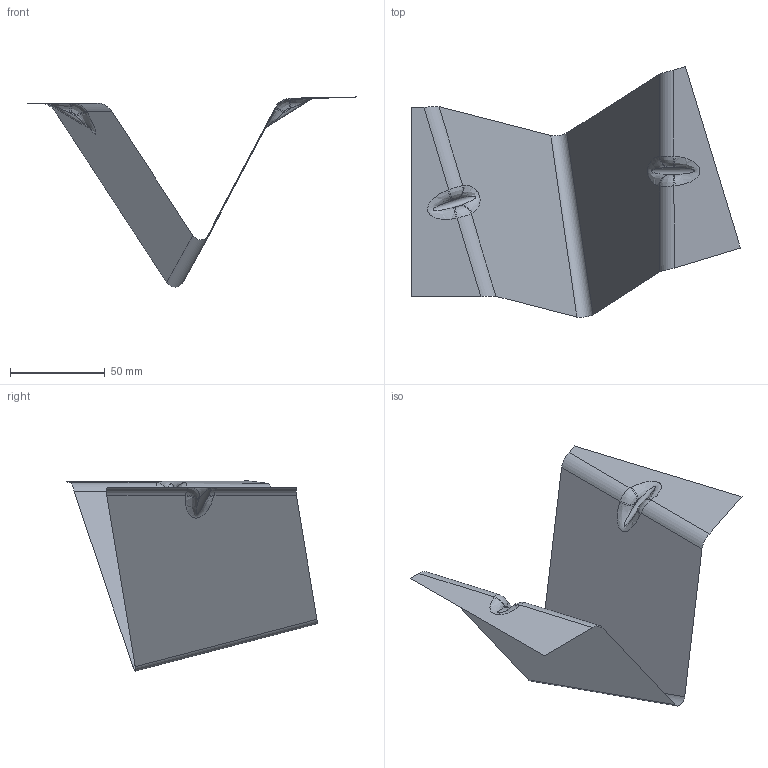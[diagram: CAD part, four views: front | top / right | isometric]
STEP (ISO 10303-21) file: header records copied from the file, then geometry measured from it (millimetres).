
FILE_DESCRIPTION(('CATIA V5 STEP Exchange'),'2;1');
FILE_NAME('C:\_Andres\UNIVERSIDAD\IQS\ASIGNATURAS\DAO\EXF\EXF-16172c\2inicio\Sala_Ferrero_Ej03_v29.stp','2017-03-05T19:32:30+00:00',('none'),('none'),'CATIA Version 5-6 Release 2014 SP1 HF18','CATIA V5 STEP AP203','none');
FILE_SCHEMA(('CONFIG_CONTROL_DESIGN'));
Length unit declared in the file: millimetre
Products named in the file (1): Sala_Ferrero_Ej03_v29
Bounding box: 173.47 x 132.16 x 100.28 mm (x, y, z)
Surface area: 26215.5 mm2 (no closed solid volume)
Topology: 0 solids, 1 shells, 31 faces, 78 edges, 48 vertices
Faces by surface type: cylinder 15, plane 8, bspline 8
Entity records: 2533 total; most frequent: CARTESIAN_POINT 1860, ORIENTED_EDGE 140, DIRECTION 90, EDGE_CURVE 78, VERTEX_POINT 48, VECTOR 40, LINE 40, ADVANCED_FACE 31
